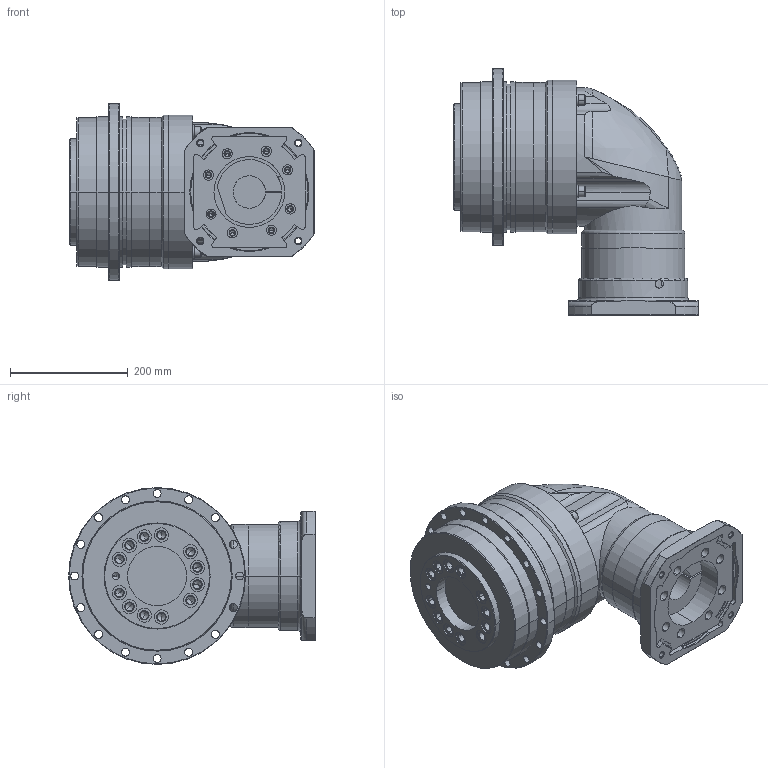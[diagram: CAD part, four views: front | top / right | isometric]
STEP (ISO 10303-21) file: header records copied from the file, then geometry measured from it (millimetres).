
FILE_DESCRIPTION((''),'2;1');
FILE_NAME('ADR2551-P0403700201_ASM','2008-09-02T',('d00080'),(''),'PRO/ENGINEER BY PARAMETRIC TECHNOLOGY CORPORATION, 2006170','PRO/ENGINEER BY PARAMETRIC TECHNOLOGY CORPORATION, 2006170','');
FILE_SCHEMA(('CONFIG_CONTROL_DESIGN'));
Length unit declared in the file: millimetre
Products named in the file (11): AD255-1; P1306700001; 220100814; ADR-PLATE-7_ASM; P1002700001; 233100007; 220101012; HOUSING-SET-7_ASM; P1305700001; P0403700201; ADR2551-P0403700201_ASM
Assembly tree (27 placements, depth 3):
  ADR2551-P0403700201_ASM
    AD255-1
    ADR-PLATE-7_ASM
      P1306700001
      220100814  x12
    HOUSING-SET-7_ASM
      P1002700001
      233100007  x4
      220101012  x4
    P1305700001
    P0403700201
Bounding box: 414.5 x 418.5 x 300 mm (x, y, z)
Volume: 17397678.7 mm3; surface area: 1079173.4 mm2
Topology: 25 solids, 69 shells, 1372 faces, 3155 edges, 1918 vertices
Faces by surface type: cylinder 609, plane 413, cone 242, torus 88, bspline 20
Entity records: 28389 total; most frequent: CARTESIAN_POINT 6354, DIRECTION 5041, ORIENTED_EDGE 4046, AXIS2_PLACEMENT_3D 2119, EDGE_CURVE 2111, VERTEX_POINT 1362, CIRCLE 1163, EDGE_LOOP 1147
